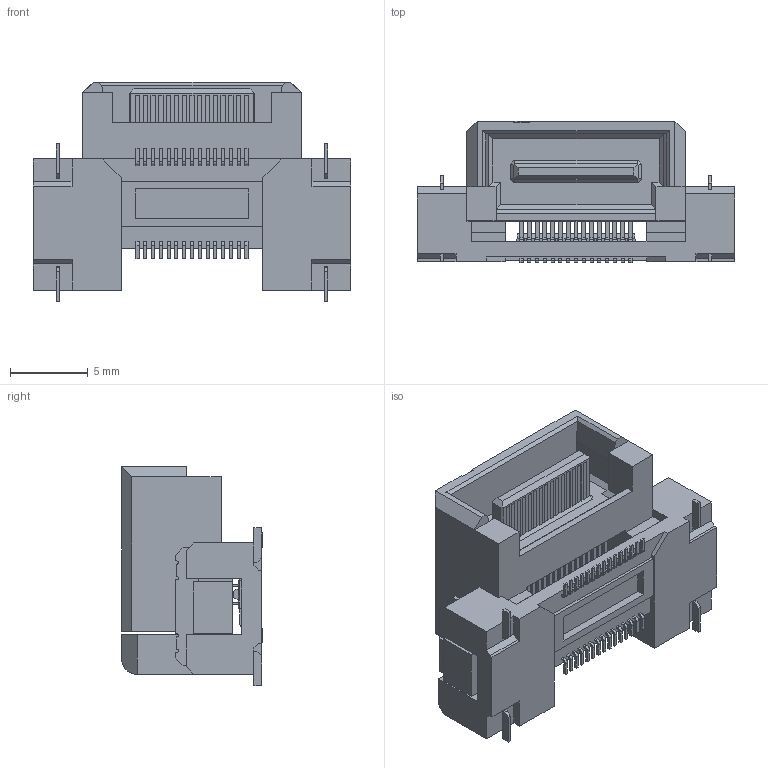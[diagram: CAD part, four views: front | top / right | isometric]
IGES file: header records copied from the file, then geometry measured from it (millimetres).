
Start section: Elysium IGES Interface
Global section: file name: 69HC:\Users\1314\Desktop\temp\回覧用-一時的\DTXX\30\P3D045_DT00-030L.igs; native system: Creo Elements/Direct Modeling 19.0F  14-Feb-2017; preprocessor: Creo Element/Direct IGES_3D V2.2; author: Unknown; organization: Unknown; date: 20170718.110721; units: millimetre
Bounding box: 20.42 x 9.05 x 14.09 mm (x, y, z)
Volume: 866.4 mm3; surface area: 1892 mm2
Topology: 1 solids, 1 shells, 1595 faces, 4448 edges, 2902 vertices
Faces by surface type: bspline 1595
